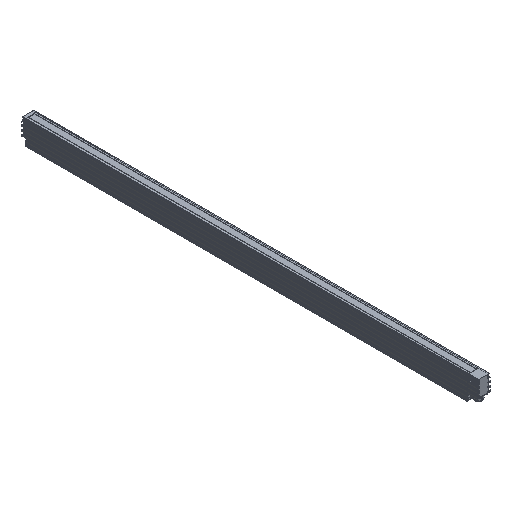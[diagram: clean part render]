
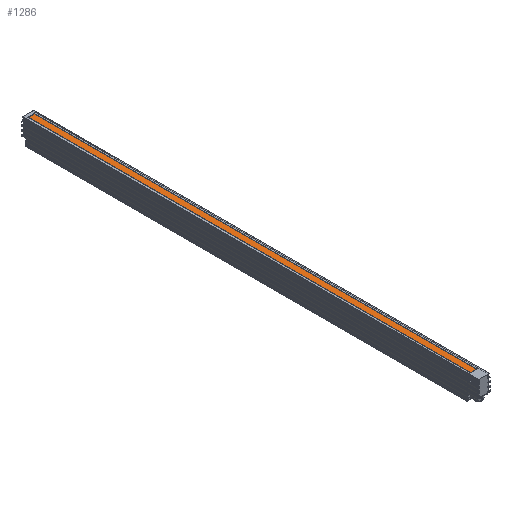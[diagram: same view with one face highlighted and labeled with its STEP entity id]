
A CAD part, isometric view. The second image highlights one B-rep face of the part: STEP entity #1286.
In plain terms, the highlighted planar face has unit normal (0, 0, 1).
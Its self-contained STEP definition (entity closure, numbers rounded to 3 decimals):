
#480 = VECTOR ( 'NONE', #4500, 1000. ) ;
#630 = FACE_OUTER_BOUND ( 'NONE', #8908, .T. ) ;
#1286 = ADVANCED_FACE ( 'NONE', ( #630 ), #8973, .F. ) ;
#1775 = EDGE_CURVE ( 'NONE', #17365, #7091, #21530, .T. ) ;
#3782 = CARTESIAN_POINT ( 'NONE',  ( -10., 1400., 39. ) ) ;
#3980 = VERTEX_POINT ( 'NONE', #3782 ) ;
#4500 = DIRECTION ( 'NONE',  ( 0., -1., 0. ) ) ;
#4668 = VECTOR ( 'NONE', #11135, 1000. ) ;
#4888 = VECTOR ( 'NONE', #7394, 1000. ) ;
#4895 = VERTEX_POINT ( 'NONE', #22454 ) ;
#5050 = CARTESIAN_POINT ( 'NONE',  ( 10., 0., 39. ) ) ;
#5120 = CARTESIAN_POINT ( 'NONE',  ( 0., 0., 39. ) ) ;
#7091 = VERTEX_POINT ( 'NONE', #5050 ) ;
#7394 = DIRECTION ( 'NONE',  ( 0., -1., 0. ) ) ;
#8429 = ORIENTED_EDGE ( 'NONE', *, *, #1775, .T. ) ;
#8802 = ORIENTED_EDGE ( 'NONE', *, *, #14483, .F. ) ;
#8908 = EDGE_LOOP ( 'NONE', ( #8802, #23055, #15559, #8429 ) ) ;
#8973 = PLANE ( 'NONE',  #16593 ) ;
#10705 = CARTESIAN_POINT ( 'NONE',  ( -10., 0., 39. ) ) ;
#11135 = DIRECTION ( 'NONE',  ( 1., 0., 0. ) ) ;
#12002 = LINE ( 'NONE', #22526, #22983 ) ;
#14483 = EDGE_CURVE ( 'NONE', #4895, #7091, #25712, .T. ) ;
#15010 = LINE ( 'NONE', #23231, #480 ) ;
#15559 = ORIENTED_EDGE ( 'NONE', *, *, #23984, .T. ) ;
#16593 = AXIS2_PLACEMENT_3D ( 'NONE', #19509, #21415, #17310 ) ;
#17310 = DIRECTION ( 'NONE',  ( -1., 0., 0. ) ) ;
#17365 = VERTEX_POINT ( 'NONE', #10705 ) ;
#18027 = DIRECTION ( 'NONE',  ( 1., 0., 0. ) ) ;
#19509 = CARTESIAN_POINT ( 'NONE',  ( 0., 1400., 39. ) ) ;
#21415 = DIRECTION ( 'NONE',  ( 0., 0., -1. ) ) ;
#21530 = LINE ( 'NONE', #5120, #4668 ) ;
#22454 = CARTESIAN_POINT ( 'NONE',  ( 10., 1400., 39. ) ) ;
#22526 = CARTESIAN_POINT ( 'NONE',  ( 0., 1400., 39. ) ) ;
#22983 = VECTOR ( 'NONE', #18027, 1000. ) ;
#23055 = ORIENTED_EDGE ( 'NONE', *, *, #26968, .F. ) ;
#23231 = CARTESIAN_POINT ( 'NONE',  ( -10., 1400., 39. ) ) ;
#23984 = EDGE_CURVE ( 'NONE', #3980, #17365, #15010, .T. ) ;
#25712 = LINE ( 'NONE', #26244, #4888 ) ;
#26244 = CARTESIAN_POINT ( 'NONE',  ( 10., 1400., 39. ) ) ;
#26968 = EDGE_CURVE ( 'NONE', #3980, #4895, #12002, .T. ) ;
